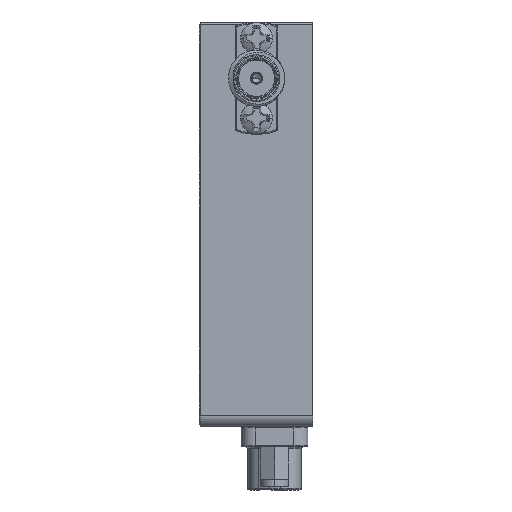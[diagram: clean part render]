
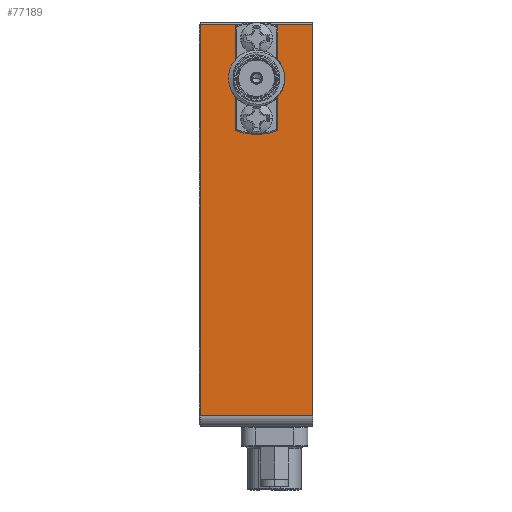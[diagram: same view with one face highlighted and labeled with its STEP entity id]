
A CAD part, left-side view. The second image highlights one B-rep face of the part: STEP entity #77189.
In plain terms, the highlighted planar face has unit normal (-1, 0, 0).
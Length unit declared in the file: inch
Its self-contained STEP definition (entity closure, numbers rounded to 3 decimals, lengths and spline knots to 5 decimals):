
#3829 = CARTESIAN_POINT ( 'NONE',  ( 0., -0.5, -0.01 ) ) ;
#4286 = DIRECTION ( 'NONE',  ( 0., 0., -1. ) ) ;
#4838 = DIRECTION ( 'NONE',  ( -1., 0., 0. ) ) ;
#5157 = ORIENTED_EDGE ( 'NONE', *, *, #59548, .T. ) ;
#6547 = ORIENTED_EDGE ( 'NONE', *, *, #71520, .T. ) ;
#7295 = VERTEX_POINT ( 'NONE', #37783 ) ;
#8720 = CIRCLE ( 'NONE', #61815, 0.006 ) ;
#13221 = DIRECTION ( 'NONE',  ( 0., 0., -1. ) ) ;
#13232 = VERTEX_POINT ( 'NONE', #28048 ) ;
#14221 = DIRECTION ( 'NONE',  ( 0., 0., -1. ) ) ;
#14775 = CARTESIAN_POINT ( 'NONE',  ( 0., -0.5, -0.01 ) ) ;
#16240 = EDGE_CURVE ( 'NONE', #7295, #46209, #83099, .T. ) ;
#16673 = ORIENTED_EDGE ( 'NONE', *, *, #46860, .F. ) ;
#18416 = AXIS2_PLACEMENT_3D ( 'NONE', #3829, #67503, #4286 ) ;
#18855 = VECTOR ( 'NONE', #81749, 39.37008 ) ;
#19003 = VECTOR ( 'NONE', #14221, 39.37008 ) ;
#19889 = DIRECTION ( 'NONE',  ( 0., 0., -1. ) ) ;
#19899 = LINE ( 'NONE', #60548, #18855 ) ;
#23651 = DIRECTION ( 'NONE',  ( 0., 1., 0. ) ) ;
#24679 = PLANE ( 'NONE',  #18416 ) ;
#28048 = CARTESIAN_POINT ( 'NONE',  ( 0., -0.25, -0.244 ) ) ;
#32065 = FACE_OUTER_BOUND ( 'NONE', #86385, .T. ) ;
#35379 = DIRECTION ( 'NONE',  ( -1., 0., 0. ) ) ;
#35432 = LINE ( 'NONE', #63589, #19003 ) ;
#37783 = CARTESIAN_POINT ( 'NONE',  ( 0., -0.5, -0.01 ) ) ;
#38695 = DIRECTION ( 'NONE',  ( 0., 0., -1. ) ) ;
#38748 = ORIENTED_EDGE ( 'NONE', *, *, #16240, .F. ) ;
#39742 = VERTEX_POINT ( 'NONE', #41556 ) ;
#41556 = CARTESIAN_POINT ( 'NONE',  ( 0., -0.25, -0.256 ) ) ;
#43046 = AXIS2_PLACEMENT_3D ( 'NONE', #70432, #35379, #13221 ) ;
#46209 = VERTEX_POINT ( 'NONE', #76872 ) ;
#46860 = EDGE_CURVE ( 'NONE', #46209, #54706, #58279, .T. ) ;
#53160 = VECTOR ( 'NONE', #23651, 39.37008 ) ;
#54706 = VERTEX_POINT ( 'NONE', #72672 ) ;
#55550 = VECTOR ( 'NONE', #19889, 39.37008 ) ;
#57773 = VERTEX_POINT ( 'NONE', #76730 ) ;
#58279 = LINE ( 'NONE', #72546, #53160 ) ;
#59548 = EDGE_CURVE ( 'NONE', #57773, #54706, #35432, .T. ) ;
#60206 = FACE_BOUND ( 'NONE', #82384, .T. ) ;
#60548 = CARTESIAN_POINT ( 'NONE',  ( 0., -0.5, -0.01 ) ) ;
#61815 = AXIS2_PLACEMENT_3D ( 'NONE', #80286, #4838, #38695 ) ;
#63589 = CARTESIAN_POINT ( 'NONE',  ( 0., 0., -0.01 ) ) ;
#67503 = DIRECTION ( 'NONE',  ( 1., 0., 0. ) ) ;
#68372 = ORIENTED_EDGE ( 'NONE', *, *, #84537, .F. ) ;
#69431 = ORIENTED_EDGE ( 'NONE', *, *, #86953, .F. ) ;
#70432 = CARTESIAN_POINT ( 'NONE',  ( 0., -0.25, -0.25 ) ) ;
#71520 = EDGE_CURVE ( 'NONE', #7295, #57773, #19899, .T. ) ;
#72546 = CARTESIAN_POINT ( 'NONE',  ( 0., -0.5, -1.75 ) ) ;
#72672 = CARTESIAN_POINT ( 'NONE',  ( 0., 0., -1.75 ) ) ;
#76730 = CARTESIAN_POINT ( 'NONE',  ( 0., 0., -0.01 ) ) ;
#76872 = CARTESIAN_POINT ( 'NONE',  ( 0., -0.5, -1.75 ) ) ;
#77189 = ADVANCED_FACE ( 'NONE', ( #32065, #60206 ), #24679, .F. ) ;
#80286 = CARTESIAN_POINT ( 'NONE',  ( 0., -0.25, -0.25 ) ) ;
#81749 = DIRECTION ( 'NONE',  ( 0., 1., 0. ) ) ;
#82384 = EDGE_LOOP ( 'NONE', ( #69431, #68372 ) ) ;
#82831 = CIRCLE ( 'NONE', #43046, 0.006 ) ;
#83099 = LINE ( 'NONE', #14775, #55550 ) ;
#84537 = EDGE_CURVE ( 'NONE', #13232, #39742, #8720, .T. ) ;
#86385 = EDGE_LOOP ( 'NONE', ( #5157, #16673, #38748, #6547 ) ) ;
#86953 = EDGE_CURVE ( 'NONE', #39742, #13232, #82831, .T. ) ;
